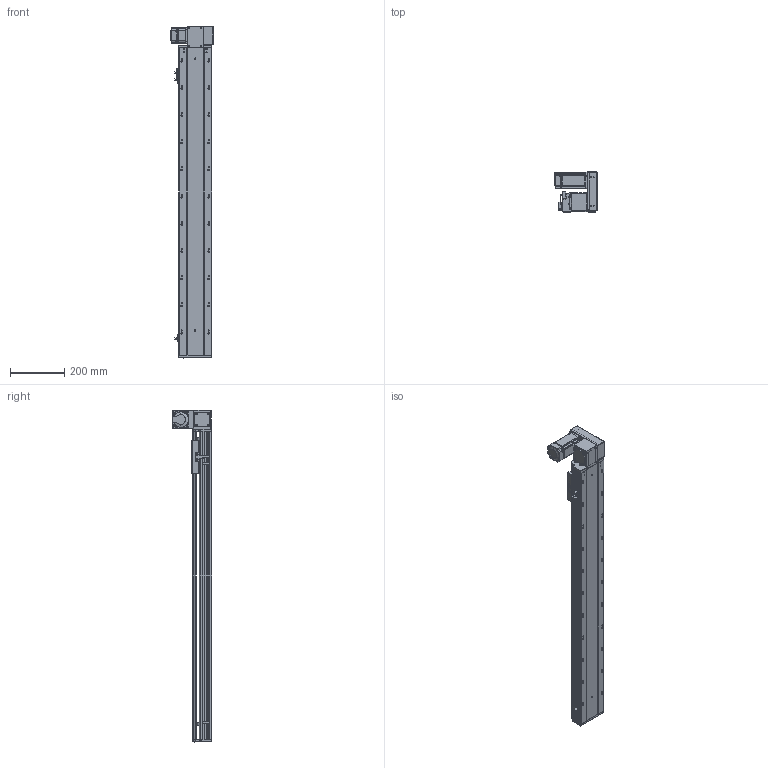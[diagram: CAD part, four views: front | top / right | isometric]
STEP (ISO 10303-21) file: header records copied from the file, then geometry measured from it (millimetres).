
FILE_DESCRIPTION (( 'STEP AP203' ), '1' );
FILE_NAME ('RY120-T-300-UR.SLDASM_900.step', '2021-03-01T05:56:29', ( '盈信电脑' ), ( '东莞市道滘镇水果街19号' ), 'SwSTEP 2.0', 'SolidWorks 2012', '' );
FILE_SCHEMA (( 'CONFIG_CONTROL_DESIGN' ));
Products named in the file (17): RY120-T-300-UR倰第菁釱_900; RY120綴裔啣; RY120-T-300-UR倰第奻裔啣_900; RY120肮祭湍臏賑輸; RY120-T-300-UR.SLDASM_900; RY120-T主同步轮轴承压盖; RY120-T蹟翐M4; RY120-T萇儂欶; RY120-T翋肮祭謫裔啣; RY120-T萇儂假蚾啣; 15; 滅袉蝶18-10; RY120外置感应片(140共用）; RY120-T翋肮祭盓傅釱; RY120-T肮祭湍揤踡輸1; RY120-T肮祭湍揤踡輸2; 覜茼ん672
Assembly tree (22 placements, depth 2):
  RY120-T-300-UR.SLDASM_900
    RY120-T-300-UR倰第菁釱_900
    RY120-T-300-UR倰第奻裔啣_900
    RY120肮祭湍臏賑輸
    RY120綴裔啣
    覜茼ん672  x3
    RY120外置感应片(140共用）
    RY120-T肮祭湍揤踡輸1
    RY120-T肮祭湍揤踡輸2
    RY120-T翋肮祭盓傅釱
    RY120-T萇儂假蚾啣
    滅袉蝶18-10  x2
    RY120-T翋肮祭謫裔啣
    15
    RY120-T蹟翐M4  x4
    RY120-T萇儂欶
    RY120-T主同步轮轴承压盖
Bounding box: 155.5 x 146 x 1221 mm (x, y, z)
Volume: 3391002.2 mm3; surface area: 1265667.4 mm2
Topology: 23 solids, 23 shells, 2972 faces, 8168 edges, 5252 vertices
Faces by surface type: plane 1452, cylinder 1178, cone 253, bspline 89
Entity records: 96521 total; most frequent: CARTESIAN_POINT 25618, ORIENTED_EDGE 14768, DIRECTION 13750, EDGE_CURVE 7384, VERTEX_POINT 4839, AXIS2_PLACEMENT_3D 4631, VECTOR 4488, LINE 4488
